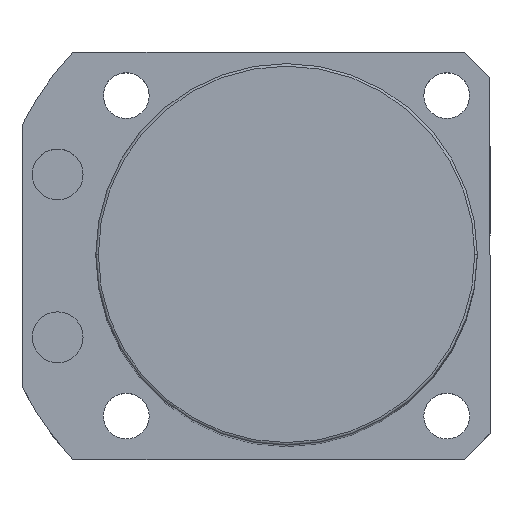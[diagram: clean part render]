
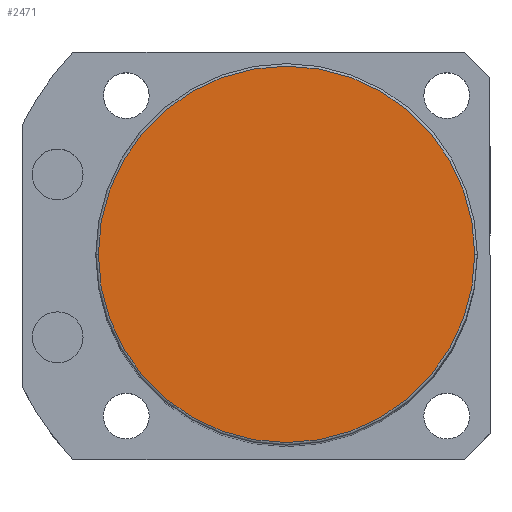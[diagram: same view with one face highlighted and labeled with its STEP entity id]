
A CAD part, top view. The second image highlights one B-rep face of the part: STEP entity #2471.
In plain terms, the highlighted planar face has unit normal (0, 0, 1).
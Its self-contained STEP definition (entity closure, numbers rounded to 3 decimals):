
#167 = AXIS2_PLACEMENT_3D ( 'NONE', #862, #5491, #909 ) ;
#204 = AXIS2_PLACEMENT_3D ( 'NONE', #1492, #5672, #5126 ) ;
#646 = EDGE_CURVE ( 'NONE', #5630, #4228, #2636, .T. ) ;
#862 = CARTESIAN_POINT ( 'NONE',  ( 0., 0., 185.5 ) ) ;
#909 = DIRECTION ( 'NONE',  ( 1., 0., 0. ) ) ;
#1350 = CARTESIAN_POINT ( 'NONE',  ( 0., 0., 185.5 ) ) ;
#1492 = CARTESIAN_POINT ( 'NONE',  ( 0., 0., 185.5 ) ) ;
#1892 = CIRCLE ( 'NONE', #204, 37. ) ;
#1937 = CARTESIAN_POINT ( 'NONE',  ( 37., 0., 185.5 ) ) ;
#2003 = ORIENTED_EDGE ( 'NONE', *, *, #3889, .T. ) ;
#2351 = PLANE ( 'NONE',  #5963 ) ;
#2428 = DIRECTION ( 'NONE',  ( 1., 0., 0. ) ) ;
#2471 = ADVANCED_FACE ( 'NONE', ( #6088 ), #2351, .T. ) ;
#2636 = CIRCLE ( 'NONE', #167, 37. ) ;
#3590 = CARTESIAN_POINT ( 'NONE',  ( -37., 0., 185.5 ) ) ;
#3889 = EDGE_CURVE ( 'NONE', #4228, #5630, #1892, .T. ) ;
#4228 = VERTEX_POINT ( 'NONE', #1937 ) ;
#4461 = EDGE_LOOP ( 'NONE', ( #2003, #6179 ) ) ;
#4958 = DIRECTION ( 'NONE',  ( 0., 0., 1. ) ) ;
#5126 = DIRECTION ( 'NONE',  ( 1., 0., 0. ) ) ;
#5491 = DIRECTION ( 'NONE',  ( 0., 0., 1. ) ) ;
#5630 = VERTEX_POINT ( 'NONE', #3590 ) ;
#5672 = DIRECTION ( 'NONE',  ( 0., 0., 1. ) ) ;
#5963 = AXIS2_PLACEMENT_3D ( 'NONE', #1350, #4958, #2428 ) ;
#6088 = FACE_OUTER_BOUND ( 'NONE', #4461, .T. ) ;
#6179 = ORIENTED_EDGE ( 'NONE', *, *, #646, .T. ) ;
